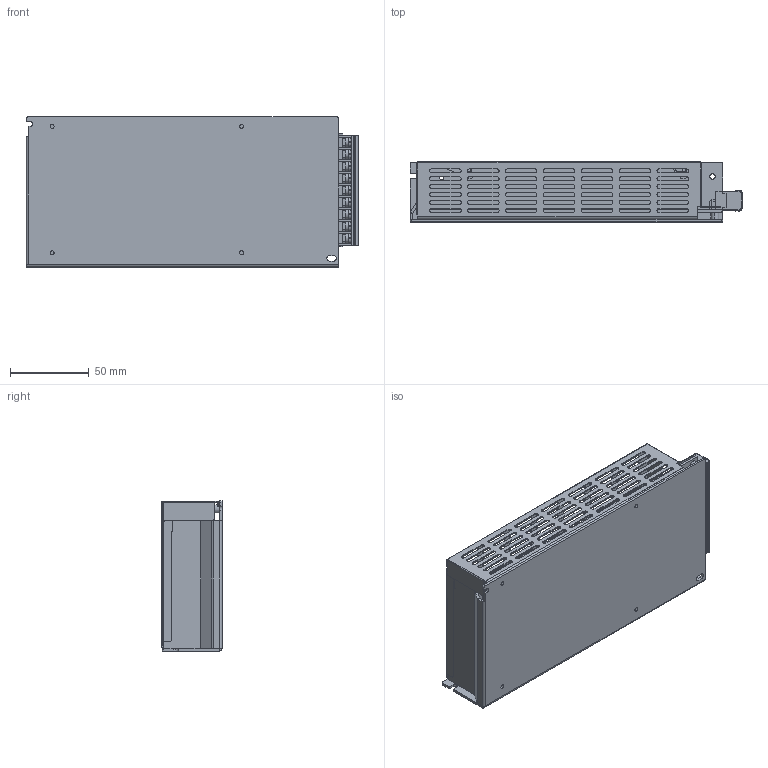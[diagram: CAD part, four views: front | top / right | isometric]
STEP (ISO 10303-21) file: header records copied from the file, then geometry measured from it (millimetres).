
FILE_DESCRIPTION (( 'STEP AP214' ), '1' );
FILE_NAME ('TXL-100-T.STEP', '2019-07-09T09:14:43', ( 'users' ), ( '' ), 'SwSTEP 2.0', 'SolidWorks 2012', '' );
FILE_SCHEMA (( 'AUTOMOTIVE_DESIGN' ));
Length unit declared in the file: millimetre
Products named in the file (6): LABEL; TML; PCB; COVER; CASE; TXL-100-T
Assembly tree (5 placements, depth 2):
  TXL-100-T
    CASE
    COVER
    PCB
    TML
    LABEL
Bounding box: 210.23 x 38.1 x 95 mm (x, y, z)
Volume: 94519.2 mm3; surface area: 147724.3 mm2
Topology: 6 solids, 6 shells, 2075 faces, 5819 edges, 3819 vertices
Faces by surface type: plane 1256, cylinder 688, bspline 113, torus 18
Entity records: 79310 total; most frequent: CARTESIAN_POINT 19642, ORIENTED_EDGE 11638, DIRECTION 10873, EDGE_CURVE 5819, LINE 4037, VECTOR 4037, VERTEX_POINT 3819, AXIS2_PLACEMENT_3D 3418
